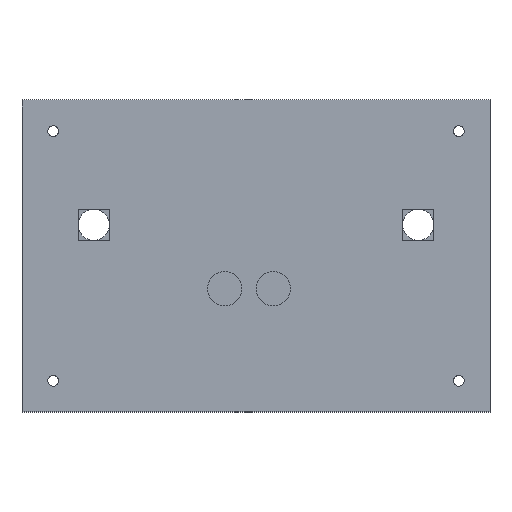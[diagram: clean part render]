
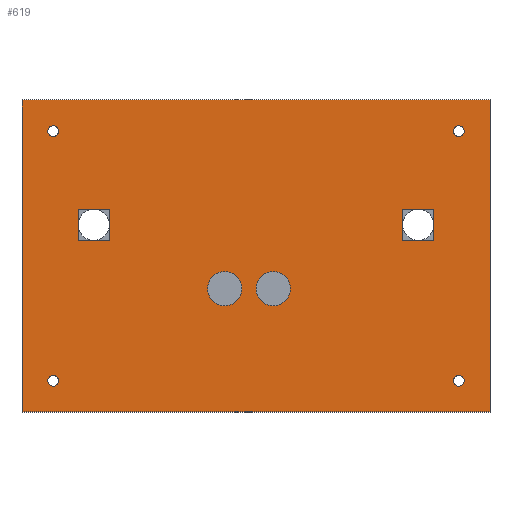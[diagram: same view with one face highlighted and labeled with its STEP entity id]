
A CAD part, top view. The second image highlights one B-rep face of the part: STEP entity #619.
In plain terms, the highlighted planar face has unit normal (0, 0, 1).
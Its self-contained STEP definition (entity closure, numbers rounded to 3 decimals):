
#15=FACE_BOUND('',#128,.T.);
#16=FACE_BOUND('',#129,.T.);
#17=FACE_BOUND('',#130,.T.);
#18=FACE_BOUND('',#131,.T.);
#19=FACE_BOUND('',#132,.T.);
#20=FACE_BOUND('',#133,.T.);
#21=FACE_BOUND('',#134,.T.);
#22=FACE_BOUND('',#135,.T.);
#55=PLANE('',#695);
#91=FACE_OUTER_BOUND('',#127,.T.);
#127=EDGE_LOOP('',(#549,#550,#551,#552));
#128=EDGE_LOOP('',(#553));
#129=EDGE_LOOP('',(#554));
#130=EDGE_LOOP('',(#555));
#131=EDGE_LOOP('',(#556));
#132=EDGE_LOOP('',(#557));
#133=EDGE_LOOP('',(#558));
#134=EDGE_LOOP('',(#559,#560,#561,#562));
#135=EDGE_LOOP('',(#563,#564,#565,#566));
#171=LINE('',#993,#227);
#174=LINE('',#998,#230);
#176=LINE('',#1002,#232);
#178=LINE('',#1005,#234);
#179=LINE('',#1009,#235);
#182=LINE('',#1014,#238);
#184=LINE('',#1018,#240);
#186=LINE('',#1021,#242);
#187=LINE('',#1025,#243);
#191=LINE('',#1033,#247);
#194=LINE('',#1039,#250);
#197=LINE('',#1044,#253);
#227=VECTOR('',#825,10.);
#230=VECTOR('',#830,10.);
#232=VECTOR('',#834,10.);
#234=VECTOR('',#838,10.);
#235=VECTOR('',#841,10.);
#238=VECTOR('',#846,10.);
#240=VECTOR('',#850,10.);
#242=VECTOR('',#854,10.);
#243=VECTOR('',#857,10.);
#247=VECTOR('',#863,10.);
#250=VECTOR('',#868,10.);
#253=VECTOR('',#873,10.);
#266=CIRCLE('',#657,11.);
#268=CIRCLE('',#660,11.);
#271=CIRCLE('',#665,3.5);
#274=CIRCLE('',#670,3.5);
#277=CIRCLE('',#675,3.5);
#280=CIRCLE('',#680,3.5);
#300=VERTEX_POINT('',#939);
#302=VERTEX_POINT('',#945);
#305=VERTEX_POINT('',#955);
#308=VERTEX_POINT('',#965);
#311=VERTEX_POINT('',#975);
#314=VERTEX_POINT('',#985);
#315=VERTEX_POINT('',#991);
#316=VERTEX_POINT('',#992);
#317=VERTEX_POINT('',#997);
#318=VERTEX_POINT('',#1001);
#319=VERTEX_POINT('',#1007);
#320=VERTEX_POINT('',#1008);
#321=VERTEX_POINT('',#1013);
#322=VERTEX_POINT('',#1017);
#323=VERTEX_POINT('',#1023);
#324=VERTEX_POINT('',#1024);
#327=VERTEX_POINT('',#1032);
#329=VERTEX_POINT('',#1038);
#361=EDGE_CURVE('',#300,#300,#266,.T.);
#364=EDGE_CURVE('',#302,#302,#268,.T.);
#369=EDGE_CURVE('',#305,#305,#271,.T.);
#374=EDGE_CURVE('',#308,#308,#274,.T.);
#379=EDGE_CURVE('',#311,#311,#277,.T.);
#384=EDGE_CURVE('',#314,#314,#280,.T.);
#385=EDGE_CURVE('',#315,#316,#171,.T.);
#388=EDGE_CURVE('',#317,#315,#174,.T.);
#390=EDGE_CURVE('',#318,#317,#176,.T.);
#392=EDGE_CURVE('',#316,#318,#178,.T.);
#393=EDGE_CURVE('',#319,#320,#179,.T.);
#396=EDGE_CURVE('',#321,#319,#182,.T.);
#398=EDGE_CURVE('',#322,#321,#184,.T.);
#400=EDGE_CURVE('',#320,#322,#186,.T.);
#401=EDGE_CURVE('',#323,#324,#187,.T.);
#405=EDGE_CURVE('',#327,#323,#191,.T.);
#408=EDGE_CURVE('',#329,#327,#194,.T.);
#411=EDGE_CURVE('',#324,#329,#197,.T.);
#549=ORIENTED_EDGE('',*,*,#411,.F.);
#550=ORIENTED_EDGE('',*,*,#401,.F.);
#551=ORIENTED_EDGE('',*,*,#405,.F.);
#552=ORIENTED_EDGE('',*,*,#408,.F.);
#553=ORIENTED_EDGE('',*,*,#361,.T.);
#554=ORIENTED_EDGE('',*,*,#364,.T.);
#555=ORIENTED_EDGE('',*,*,#369,.T.);
#556=ORIENTED_EDGE('',*,*,#374,.T.);
#557=ORIENTED_EDGE('',*,*,#379,.T.);
#558=ORIENTED_EDGE('',*,*,#384,.T.);
#559=ORIENTED_EDGE('',*,*,#385,.T.);
#560=ORIENTED_EDGE('',*,*,#392,.T.);
#561=ORIENTED_EDGE('',*,*,#390,.T.);
#562=ORIENTED_EDGE('',*,*,#388,.T.);
#563=ORIENTED_EDGE('',*,*,#393,.T.);
#564=ORIENTED_EDGE('',*,*,#400,.T.);
#565=ORIENTED_EDGE('',*,*,#398,.T.);
#566=ORIENTED_EDGE('',*,*,#396,.T.);
#619=ADVANCED_FACE('',(#91,#15,#16,#17,#18,#19,#20,#21,#22),#55,.T.);
#657=AXIS2_PLACEMENT_3D('',#941,#762,#763);
#660=AXIS2_PLACEMENT_3D('',#947,#769,#770);
#665=AXIS2_PLACEMENT_3D('',#957,#781,#782);
#670=AXIS2_PLACEMENT_3D('',#967,#793,#794);
#675=AXIS2_PLACEMENT_3D('',#977,#805,#806);
#680=AXIS2_PLACEMENT_3D('',#987,#817,#818);
#695=AXIS2_PLACEMENT_3D('',#1046,#875,#876);
#762=DIRECTION('center_axis',(0.,0.,-1.));
#763=DIRECTION('ref_axis',(-1.,0.,0.));
#769=DIRECTION('center_axis',(0.,0.,-1.));
#770=DIRECTION('ref_axis',(-1.,0.,0.));
#781=DIRECTION('center_axis',(0.,0.,-1.));
#782=DIRECTION('ref_axis',(-1.,0.,0.));
#793=DIRECTION('center_axis',(0.,0.,-1.));
#794=DIRECTION('ref_axis',(-1.,0.,0.));
#805=DIRECTION('center_axis',(0.,0.,-1.));
#806=DIRECTION('ref_axis',(-1.,0.,0.));
#817=DIRECTION('center_axis',(0.,0.,-1.));
#818=DIRECTION('ref_axis',(-1.,0.,0.));
#825=DIRECTION('',(1.,0.,0.));
#830=DIRECTION('',(0.,1.,0.));
#834=DIRECTION('',(-1.,0.,0.));
#838=DIRECTION('',(0.,-1.,0.));
#841=DIRECTION('',(0.,1.,0.));
#846=DIRECTION('',(-1.,0.,0.));
#850=DIRECTION('',(0.,-1.,0.));
#854=DIRECTION('',(1.,0.,0.));
#857=DIRECTION('',(0.,-1.,0.));
#863=DIRECTION('',(1.,0.,0.));
#868=DIRECTION('',(0.,1.,0.));
#873=DIRECTION('',(-1.,0.,0.));
#875=DIRECTION('center_axis',(0.,0.,1.));
#876=DIRECTION('ref_axis',(1.,0.,0.));
#939=CARTESIAN_POINT('',(-9.,-41.,0.));
#941=CARTESIAN_POINT('Origin',(-20.,-41.,0.));
#945=CARTESIAN_POINT('',(22.,-41.,0.));
#947=CARTESIAN_POINT('Origin',(11.,-41.,0.));
#955=CARTESIAN_POINT('',(133.5,60.,0.));
#957=CARTESIAN_POINT('Origin',(130.,60.,0.));
#965=CARTESIAN_POINT('',(-126.5,-100.,0.));
#967=CARTESIAN_POINT('Origin',(-130.,-100.,0.));
#975=CARTESIAN_POINT('',(133.5,-100.,0.));
#977=CARTESIAN_POINT('Origin',(130.,-100.,0.));
#985=CARTESIAN_POINT('',(-126.5,60.,0.));
#987=CARTESIAN_POINT('Origin',(-130.,60.,0.));
#991=CARTESIAN_POINT('',(-114.,10.,0.));
#992=CARTESIAN_POINT('',(-94.,10.,0.));
#993=CARTESIAN_POINT('',(-57.,10.,0.));
#997=CARTESIAN_POINT('',(-114.,-10.,0.));
#998=CARTESIAN_POINT('',(-114.,-15.,0.));
#1001=CARTESIAN_POINT('',(-94.,-10.,0.));
#1002=CARTESIAN_POINT('',(-47.,-10.,0.));
#1005=CARTESIAN_POINT('',(-94.,-5.,0.));
#1007=CARTESIAN_POINT('',(94.,-10.,0.));
#1008=CARTESIAN_POINT('',(94.,10.,0.));
#1009=CARTESIAN_POINT('',(94.,-15.,0.));
#1013=CARTESIAN_POINT('',(114.,-10.,0.));
#1014=CARTESIAN_POINT('',(57.,-10.,0.));
#1017=CARTESIAN_POINT('',(114.,10.,0.));
#1018=CARTESIAN_POINT('',(114.,-5.,0.));
#1021=CARTESIAN_POINT('',(47.,10.,0.));
#1023=CARTESIAN_POINT('',(150.,80.,0.));
#1024=CARTESIAN_POINT('',(150.,-120.,0.));
#1025=CARTESIAN_POINT('',(150.,80.,0.));
#1032=CARTESIAN_POINT('',(-150.,80.,0.));
#1033=CARTESIAN_POINT('',(-150.,80.,0.));
#1038=CARTESIAN_POINT('',(-150.,-120.,0.));
#1039=CARTESIAN_POINT('',(-150.,-120.,0.));
#1044=CARTESIAN_POINT('',(150.,-120.,0.));
#1046=CARTESIAN_POINT('Origin',(0.,-20.,0.));
